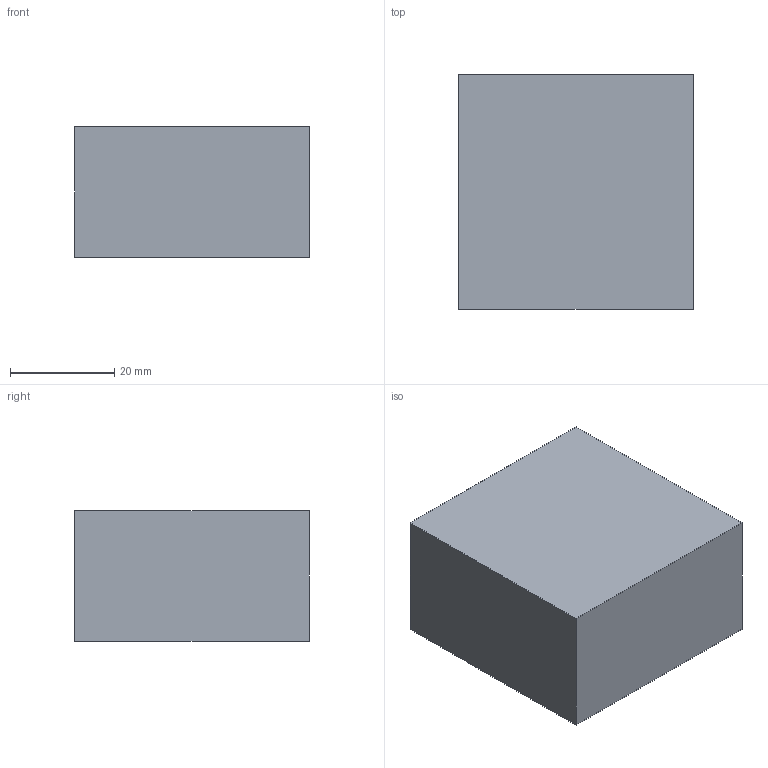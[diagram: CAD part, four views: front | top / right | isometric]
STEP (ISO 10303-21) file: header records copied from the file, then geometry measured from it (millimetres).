
FILE_DESCRIPTION (( 'STEP AP203' ), '1' );
FILE_NAME ('FT10ES08.STEP', '2026-06-26T01:10:47', ( 'USER' ), ( '' ), 'SwSTEP 2.0', 'SolidWorks 2023', '' );
FILE_SCHEMA (( 'CONFIG_CONTROL_DESIGN' ));
Length unit declared in the file: millimetre
Products named in the file (1): FT10ES08
Bounding box: 45 x 45 x 25 mm (x, y, z)
Volume: 38120.2 mm3; surface area: 11326.7 mm2
Topology: 1 solids, 1 shells, 38 faces, 75 edges, 43 vertices
Faces by surface type: cylinder 18, plane 12, cone 8
Entity records: 1046 total; most frequent: DIRECTION 180, CARTESIAN_POINT 178, ORIENTED_EDGE 150, EDGE_CURVE 75, AXIS2_PLACEMENT_3D 73, EDGE_LOOP 44, VERTEX_POINT 43, FACE_OUTER_BOUND 38
